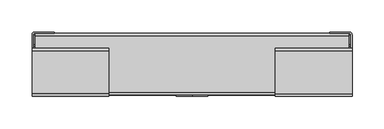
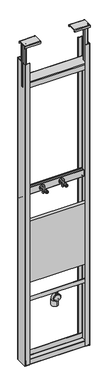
"""IFC4 building model written with IfcOpenShell, lengths in millimetres: flow terminal geometry, NLRS_74_PF_TLB_HU-ASM-AGB_Geberit : HU-ASM-AGB."""

from ifc_helpers import new_model, si_unit, point, frame, frame_2d, origin, place, context, project, spatial, polyline, circle_curve, ellipse_curve, trimmed, segment, composite_curve, outline, extrude, source, transform, mapped, element, save
from ifc_brep_helpers import plane_surface, cylinder_surface, revolved_surface, advanced_brep


def flow_terminal_17ddd345(model_context):
    return source(origin(), model_context, "Body", "SolidModel", [
        extrude(outline(composite_curve([segment(trimmed(circle_curve(frame_2d((1150.0, 894.5814924)), 20.0), [point((1141.7647059, 912.8072964))], [point((1141.7647059, 876.3556885))], False, "CARTESIAN"), True, "CONTINUOUS"), segment(trimmed(circle_curve(frame_2d((1143.0, 879.0895591)), 3.0), [point((1141.7647059, 876.3556885))], [point((1140.0, 879.0895591))], False, "CARTESIAN"), True, "CONTINUOUS"), segment(polyline([(1140.0, 879.0895591), (1140.0, 910.0734258)]), True, "CONTINUOUS"), segment(trimmed(circle_curve(frame_2d((1143.0, 910.0734258)), 3.0), [point((1140.0, 910.0734258))], [point((1141.7647059, 912.8072964))], False, "CARTESIAN"), True, "CONTINUOUS")], self_intersect=False)), frame((0.0, 73.7121106, 0.0), z_axis=(0.0, 1.0, 0.0), x_axis=(0.0, 0.0, 1.0)), (0.0, 0.0, 1.0), 5.0),
        advanced_brep(
        [(894.5814924, 60.7121106, 1115.0), (894.5814924, 66.7121106, 1115.0), (894.5814924, 54.7121106, 1115.0), (894.5814924, 66.7121106, 1130.0), (894.5814924, 54.7121106, 1130.0), (894.5814924, 68.7121106, 1130.0), (894.5814924, 52.7121106, 1130.0), (894.5814924, 68.7121106, 1150.0), (894.5814924, 52.7121106, 1150.0), (894.5814924, 60.7121106, 1150.0)],
        [
            (0, 1),
            (1, 2, circle_curve(frame((894.5814924, 60.7121106, 1115.0), z_axis=(0.0, 0.0, -1.0), x_axis=(0.0, 1.0, 0.0)), 6.0)),
            (2, 0),
            (2, 1, circle_curve(frame((894.5814924, 60.7121106, 1115.0), z_axis=(0.0, 0.0, -1.0), x_axis=(0.0, 1.0, 0.0)), 6.0)),
            (1, 3),
            (3, 4, circle_curve(frame((894.5814924, 60.7121106, 1130.0), z_axis=(0.0, 0.0, -1.0), x_axis=(0.0, 1.0, 0.0)), 6.0)),
            (4, 2),
            (4, 3, circle_curve(frame((894.5814924, 60.7121106, 1130.0), z_axis=(0.0, 0.0, -1.0), x_axis=(0.0, 1.0, 0.0)), 6.0)),
            (3, 5),
            (5, 6, circle_curve(frame((894.5814924, 60.7121106, 1130.0), z_axis=(0.0, 0.0, -1.0), x_axis=(0.0, 1.0, 0.0)), 8.0)),
            (6, 4),
            (6, 5, circle_curve(frame((894.5814924, 60.7121106, 1130.0), z_axis=(0.0, 0.0, -1.0), x_axis=(0.0, 1.0, 0.0)), 8.0)),
            (5, 7),
            (7, 8, circle_curve(frame((894.5814924, 60.7121106, 1150.0), z_axis=(0.0, 0.0, -1.0), x_axis=(0.0, 1.0, 0.0)), 8.0)),
            (8, 6),
            (8, 7, circle_curve(frame((894.5814924, 60.7121106, 1150.0), z_axis=(0.0, 0.0, -1.0), x_axis=(0.0, 1.0, 0.0)), 8.0)),
            (7, 9),
            (9, 8),
        ],
        [
            plane_surface(frame((894.5814924, 60.7121106, 1115.0), z_axis=(0.0, 0.0, -1.0), x_axis=(0.0, 1.0, 0.0))),
            cylinder_surface(frame((894.5814924, 60.7121106, 1154.6416054), z_axis=(0.0, 0.0, -1.0), x_axis=(0.0, 1.0, 0.0)), 6.0),
            plane_surface(frame((894.5814924, 60.7121106, 1130.0), z_axis=(0.0, 0.0, -1.0), x_axis=(0.0, 1.0, 0.0))),
            cylinder_surface(frame((894.5814924, 60.7121106, 1154.6416054), z_axis=(0.0, 0.0, -1.0), x_axis=(0.0, 1.0, 0.0)), 8.0),
            plane_surface(frame((894.5814924, 60.7121106, 1150.0), z_axis=(0.0, 0.0, 1.0), x_axis=(0.0, 1.0, 0.0))),
        ],
        [
            (0, [[1, 2, 3]]),
            (0, [[-3, 4, -1]]),
            (1, [[-2, 5, 6, 7]]),
            (1, [[-4, -7, 8, -5]]),
            (2, [[-6, 9, 10, 11]]),
            (2, [[-8, -11, 12, -9]]),
            (3, [[-10, 13, 14, 15]]),
            (3, [[-12, -15, 16, -13]]),
            (4, [[-14, 17, 18]]),
            (4, [[-16, -18, -17]]),
        ],
    ),
        advanced_brep(
        [(894.5814924, 23.7121106, 1141.0), (894.5814924, 23.7121106, 1159.0), (894.5814924, 23.7121106, 1160.0), (894.5814924, 23.7121106, 1140.0), (894.5814924, 8.7121106, 1160.0), (894.5814924, 8.7121106, 1140.0), (894.5814924, 8.7121106, 1156.0), (894.5814924, 8.7121106, 1144.0), (894.5814924, 38.7121106, 1156.0), (894.5814924, 38.7121106, 1144.0), (894.5814924, 38.7121106, 1150.0), (894.5814924, 73.7121106, 1150.0), (894.5814924, 73.7121106, 1159.0), (894.5814924, 73.7121106, 1141.0)],
        [
            (0, 1, circle_curve(frame((894.5814924, 23.7121106, 1150.0), z_axis=(0.0, -1.0, 0.0), x_axis=(0.0, 0.0, 1.0)), 9.0)),
            (1, 2),
            (2, 3, circle_curve(frame((894.5814924, 23.7121106, 1150.0), z_axis=(0.0, 1.0, 0.0), x_axis=(0.0, 0.0, 1.0)), 10.0)),
            (3, 0),
            (1, 0, circle_curve(frame((894.5814924, 23.7121106, 1150.0), z_axis=(0.0, -1.0, 0.0), x_axis=(0.0, 0.0, 1.0)), 9.0)),
            (3, 2, circle_curve(frame((894.5814924, 23.7121106, 1150.0), z_axis=(0.0, 1.0, 0.0), x_axis=(0.0, 0.0, 1.0)), 10.0)),
            (2, 4),
            (4, 5, circle_curve(frame((894.5814924, 8.7121106, 1150.0), z_axis=(0.0, 1.0, 0.0), x_axis=(0.0, 0.0, 1.0)), 10.0)),
            (5, 3),
            (5, 4, circle_curve(frame((894.5814924, 8.7121106, 1150.0), z_axis=(0.0, 1.0, 0.0), x_axis=(0.0, 0.0, 1.0)), 10.0)),
            (4, 6),
            (6, 7, circle_curve(frame((894.5814924, 8.7121106, 1150.0), z_axis=(0.0, 1.0, 0.0), x_axis=(0.0, 0.0, 1.0)), 6.0)),
            (7, 5),
            (7, 6, circle_curve(frame((894.5814924, 8.7121106, 1150.0), z_axis=(0.0, 1.0, 0.0), x_axis=(0.0, 0.0, 1.0)), 6.0)),
            (6, 8),
            (8, 9, circle_curve(frame((894.5814924, 38.7121106, 1150.0), z_axis=(0.0, 1.0, 0.0), x_axis=(0.0, 0.0, 1.0)), 6.0)),
            (9, 7),
            (9, 8, circle_curve(frame((894.5814924, 38.7121106, 1150.0), z_axis=(0.0, 1.0, 0.0), x_axis=(0.0, 0.0, 1.0)), 6.0)),
            (8, 10),
            (10, 9),
            (11, 12),
            (12, 13, circle_curve(frame((894.5814924, 73.7121106, 1150.0), z_axis=(0.0, 1.0, 0.0), x_axis=(0.0, 0.0, 1.0)), 9.0)),
            (13, 11),
            (13, 12, circle_curve(frame((894.5814924, 73.7121106, 1150.0), z_axis=(0.0, 1.0, 0.0), x_axis=(0.0, 0.0, 1.0)), 9.0)),
            (12, 1),
            (0, 13),
        ],
        [
            plane_surface(frame((894.5814924, 23.7121106, 1150.0), z_axis=(0.0, 1.0, 0.0), x_axis=(0.0, 0.0, 1.0))),
            cylinder_surface(frame((894.5814924, 1521.1330064, 1150.0), z_axis=(0.0, 1.0, 0.0), x_axis=(0.0, 0.0, 1.0)), 10.0),
            plane_surface(frame((894.5814924, 8.7121106, 1150.0), z_axis=(0.0, -1.0, 0.0), x_axis=(0.0, 0.0, 1.0))),
            revolved_surface(polyline([(894.5814924, 38.71211059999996, 1156.0), (894.5814924, 8.71211059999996, 1156.0)]), (894.5814924, 1521.1330064, 1150.0), (0.0, 1.0, 0.0)),
            plane_surface(frame((894.5814924, 38.7121106, 1150.0), z_axis=(0.0, -1.0, 0.0), x_axis=(0.0, 0.0, 1.0))),
            plane_surface(frame((894.5814924, 73.7121106, 1150.0), z_axis=(0.0, 1.0, 0.0), x_axis=(0.0, 0.0, 1.0))),
            cylinder_surface(frame((894.5814924, 1521.1330064, 1150.0), z_axis=(0.0, 1.0, 0.0), x_axis=(0.0, 0.0, 1.0)), 9.0),
        ],
        [
            (0, [[1, 2, 3, 4]]),
            (0, [[5, -4, 6, -2]]),
            (1, [[-3, 7, 8, 9]]),
            (1, [[-6, -9, 10, -7]]),
            (2, [[-8, 11, 12, 13]]),
            (2, [[-10, -13, 14, -11]]),
            (3, [[-12, 15, 16, 17]]),
            (3, [[-14, -17, 18, -15]]),
            (4, [[-16, 19, 20]]),
            (4, [[-18, -20, -19]]),
            (5, [[21, 22, 23]]),
            (5, [[-23, 24, -21]]),
            (6, [[-22, 25, -1, 26]]),
            (6, [[-24, -26, -5, -25]]),
        ],
    ),
        extrude(outline(composite_curve([segment(trimmed(circle_curve(frame_2d((1150.0, 744.5814924)), 20.0), [point((1141.7647059, 762.8072964))], [point((1141.7647059, 726.3556885))], False, "CARTESIAN"), True, "CONTINUOUS"), segment(trimmed(circle_curve(frame_2d((1143.0, 729.0895591)), 3.0), [point((1141.7647059, 726.3556885))], [point((1140.0, 729.0895591))], False, "CARTESIAN"), True, "CONTINUOUS"), segment(polyline([(1140.0, 729.0895591), (1140.0, 760.0734258)]), True, "CONTINUOUS"), segment(trimmed(circle_curve(frame_2d((1143.0, 760.0734258)), 3.0), [point((1140.0, 760.0734258))], [point((1141.7647059, 762.8072964))], False, "CARTESIAN"), True, "CONTINUOUS")], self_intersect=False)), frame((0.0, 73.7121106, 0.0), z_axis=(0.0, 1.0, 0.0), x_axis=(0.0, 0.0, 1.0)), (0.0, 0.0, 1.0), 5.0),
        advanced_brep(
        [(744.5814924, 60.7121106, 1115.0), (744.5814924, 66.7121106, 1115.0), (744.5814924, 54.7121106, 1115.0), (744.5814924, 66.7121106, 1130.0), (744.5814924, 54.7121106, 1130.0), (744.5814924, 68.7121106, 1130.0), (744.5814924, 52.7121106, 1130.0), (744.5814924, 68.7121106, 1150.0), (744.5814924, 52.7121106, 1150.0), (744.5814924, 60.7121106, 1150.0)],
        [
            (0, 1),
            (1, 2, circle_curve(frame((744.5814924, 60.7121106, 1115.0), z_axis=(0.0, 0.0, -1.0), x_axis=(0.0, 1.0, 0.0)), 6.0)),
            (2, 0),
            (2, 1, circle_curve(frame((744.5814924, 60.7121106, 1115.0), z_axis=(0.0, 0.0, -1.0), x_axis=(0.0, 1.0, 0.0)), 6.0)),
            (1, 3),
            (3, 4, circle_curve(frame((744.5814924, 60.7121106, 1130.0), z_axis=(0.0, 0.0, -1.0), x_axis=(0.0, 1.0, 0.0)), 6.0)),
            (4, 2),
            (4, 3, circle_curve(frame((744.5814924, 60.7121106, 1130.0), z_axis=(0.0, 0.0, -1.0), x_axis=(0.0, 1.0, 0.0)), 6.0)),
            (3, 5),
            (5, 6, circle_curve(frame((744.5814924, 60.7121106, 1130.0), z_axis=(0.0, 0.0, -1.0), x_axis=(0.0, 1.0, 0.0)), 8.0)),
            (6, 4),
            (6, 5, circle_curve(frame((744.5814924, 60.7121106, 1130.0), z_axis=(0.0, 0.0, -1.0), x_axis=(0.0, 1.0, 0.0)), 8.0)),
            (5, 7),
            (7, 8, circle_curve(frame((744.5814924, 60.7121106, 1150.0), z_axis=(0.0, 0.0, -1.0), x_axis=(0.0, 1.0, 0.0)), 8.0)),
            (8, 6),
            (8, 7, circle_curve(frame((744.5814924, 60.7121106, 1150.0), z_axis=(0.0, 0.0, -1.0), x_axis=(0.0, 1.0, 0.0)), 8.0)),
            (7, 9),
            (9, 8),
        ],
        [
            plane_surface(frame((744.5814924, 60.7121106, 1115.0), z_axis=(0.0, 0.0, -1.0), x_axis=(0.0, 1.0, 0.0))),
            cylinder_surface(frame((744.5814924, 60.7121106, 1154.6416054), z_axis=(0.0, 0.0, -1.0), x_axis=(0.0, 1.0, 0.0)), 6.0),
            plane_surface(frame((744.5814924, 60.7121106, 1130.0), z_axis=(0.0, 0.0, -1.0), x_axis=(0.0, 1.0, 0.0))),
            cylinder_surface(frame((744.5814924, 60.7121106, 1154.6416054), z_axis=(0.0, 0.0, -1.0), x_axis=(0.0, 1.0, 0.0)), 8.0),
            plane_surface(frame((744.5814924, 60.7121106, 1150.0), z_axis=(0.0, 0.0, 1.0), x_axis=(0.0, 1.0, 0.0))),
        ],
        [
            (0, [[1, 2, 3]]),
            (0, [[-3, 4, -1]]),
            (1, [[-2, 5, 6, 7]]),
            (1, [[-4, -7, 8, -5]]),
            (2, [[-6, 9, 10, 11]]),
            (2, [[-8, -11, 12, -9]]),
            (3, [[-10, 13, 14, 15]]),
            (3, [[-12, -15, 16, -13]]),
            (4, [[-14, 17, 18]]),
            (4, [[-16, -18, -17]]),
        ],
    ),
        advanced_brep(
        [(744.5814924, 23.7121106, 1141.0), (744.5814924, 23.7121106, 1159.0), (744.5814924, 23.7121106, 1160.0), (744.5814924, 23.7121106, 1140.0), (744.5814924, 8.7121106, 1160.0), (744.5814924, 8.7121106, 1140.0), (744.5814924, 8.7121106, 1156.0), (744.5814924, 8.7121106, 1144.0), (744.5814924, 38.7121106, 1156.0), (744.5814924, 38.7121106, 1144.0), (744.5814924, 38.7121106, 1150.0), (744.5814924, 73.7121106, 1150.0), (744.5814924, 73.7121106, 1159.0), (744.5814924, 73.7121106, 1141.0)],
        [
            (0, 1, circle_curve(frame((744.5814924, 23.7121106, 1150.0), z_axis=(0.0, -1.0, 0.0), x_axis=(0.0, 0.0, 1.0)), 9.0)),
            (1, 2),
            (2, 3, circle_curve(frame((744.5814924, 23.7121106, 1150.0), z_axis=(0.0, 1.0, 0.0), x_axis=(0.0, 0.0, 1.0)), 10.0)),
            (3, 0),
            (1, 0, circle_curve(frame((744.5814924, 23.7121106, 1150.0), z_axis=(0.0, -1.0, 0.0), x_axis=(0.0, 0.0, 1.0)), 9.0)),
            (3, 2, circle_curve(frame((744.5814924, 23.7121106, 1150.0), z_axis=(0.0, 1.0, 0.0), x_axis=(0.0, 0.0, 1.0)), 10.0)),
            (2, 4),
            (4, 5, circle_curve(frame((744.5814924, 8.7121106, 1150.0), z_axis=(0.0, 1.0, 0.0), x_axis=(0.0, 0.0, 1.0)), 10.0)),
            (5, 3),
            (5, 4, circle_curve(frame((744.5814924, 8.7121106, 1150.0), z_axis=(0.0, 1.0, 0.0), x_axis=(0.0, 0.0, 1.0)), 10.0)),
            (4, 6),
            (6, 7, circle_curve(frame((744.5814924, 8.7121106, 1150.0), z_axis=(0.0, 1.0, 0.0), x_axis=(0.0, 0.0, 1.0)), 6.0)),
            (7, 5),
            (7, 6, circle_curve(frame((744.5814924, 8.7121106, 1150.0), z_axis=(0.0, 1.0, 0.0), x_axis=(0.0, 0.0, 1.0)), 6.0)),
            (6, 8),
            (8, 9, circle_curve(frame((744.5814924, 38.7121106, 1150.0), z_axis=(0.0, 1.0, 0.0), x_axis=(0.0, 0.0, 1.0)), 6.0)),
            (9, 7),
            (9, 8, circle_curve(frame((744.5814924, 38.7121106, 1150.0), z_axis=(0.0, 1.0, 0.0), x_axis=(0.0, 0.0, 1.0)), 6.0)),
            (8, 10),
            (10, 9),
            (11, 12),
            (12, 13, circle_curve(frame((744.5814924, 73.7121106, 1150.0), z_axis=(0.0, 1.0, 0.0), x_axis=(0.0, 0.0, 1.0)), 9.0)),
            (13, 11),
            (13, 12, circle_curve(frame((744.5814924, 73.7121106, 1150.0), z_axis=(0.0, 1.0, 0.0), x_axis=(0.0, 0.0, 1.0)), 9.0)),
            (12, 1),
            (0, 13),
        ],
        [
            plane_surface(frame((744.5814924, 23.7121106, 1150.0), z_axis=(0.0, 1.0, 0.0), x_axis=(0.0, 0.0, 1.0))),
            cylinder_surface(frame((744.5814924, 1521.1330064, 1150.0), z_axis=(0.0, 1.0, 0.0), x_axis=(0.0, 0.0, 1.0)), 10.0),
            plane_surface(frame((744.5814924, 8.7121106, 1150.0), z_axis=(0.0, -1.0, 0.0), x_axis=(0.0, 0.0, 1.0))),
            revolved_surface(polyline([(744.5814924, 38.71211059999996, 1156.0), (744.5814924, 8.71211059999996, 1156.0)]), (744.5814924, 1521.1330064, 1150.0), (0.0, 1.0, 0.0)),
            plane_surface(frame((744.5814924, 38.7121106, 1150.0), z_axis=(0.0, -1.0, 0.0), x_axis=(0.0, 0.0, 1.0))),
            plane_surface(frame((744.5814924, 73.7121106, 1150.0), z_axis=(0.0, 1.0, 0.0), x_axis=(0.0, 0.0, 1.0))),
            cylinder_surface(frame((744.5814924, 1521.1330064, 1150.0), z_axis=(0.0, 1.0, 0.0), x_axis=(0.0, 0.0, 1.0)), 9.0),
        ],
        [
            (0, [[1, 2, 3, 4]]),
            (0, [[5, -4, 6, -2]]),
            (1, [[-3, 7, 8, 9]]),
            (1, [[-6, -9, 10, -7]]),
            (2, [[-8, 11, 12, 13]]),
            (2, [[-10, -13, 14, -11]]),
            (3, [[-12, 15, 16, 17]]),
            (3, [[-14, -17, 18, -15]]),
            (4, [[-16, 19, 20]]),
            (4, [[-18, -20, -19]]),
            (5, [[21, 22, 23]]),
            (5, [[-23, 24, -21]]),
            (6, [[-22, 25, -1, 26]]),
            (6, [[-24, -26, -5, -25]]),
        ],
    ),
        extrude(outline(composite_curve([segment(polyline([(1034.5814924, 0.5), (1034.5814924, 2.5), (1065.5814924, 2.5)]), True, "CONTINUOUS"), segment(trimmed(circle_curve(frame_2d((1065.5814924, 4.5)), 2.0), [point((1065.5814924, 2.5))], [point((1067.5814924, 4.5))], True, "CARTESIAN"), True, "CONTINUOUS"), segment(polyline([(1067.5814924, 4.5), (1067.5814924, 96.5)]), True, "CONTINUOUS"), segment(trimmed(circle_curve(frame_2d((1065.5814924, 96.5)), 2.0), [point((1067.5814924, 96.5))], [point((1065.5814924, 98.5))], True, "CARTESIAN"), True, "CONTINUOUS"), segment(polyline([(1065.5814924, 98.5), (1034.5814924, 98.5), (1034.5814924, 100.5), (1065.5814924, 100.5)]), True, "CONTINUOUS"), segment(trimmed(circle_curve(frame_2d((1065.5814924, 96.5)), 4.0), [point((1065.5814924, 100.5))], [point((1069.5814924, 96.5))], False, "CARTESIAN"), True, "CONTINUOUS"), segment(polyline([(1069.5814924, 96.5), (1069.5814924, 4.5)]), True, "CONTINUOUS"), segment(trimmed(circle_curve(frame_2d((1065.5814924, 4.5)), 4.0), [point((1069.5814924, 4.5))], [point((1065.5814924, 0.5))], False, "CARTESIAN"), True, "CONTINUOUS"), segment(polyline([(1065.5814924, 0.5), (1034.5814924, 0.5)]), True, "CONTINUOUS")], self_intersect=False)), frame((0.0, 0.0, -200.0), z_axis=(0.0, 0.0, 1.0), x_axis=(1.0, 0.0, 0.0)), (0.0, 0.0, 1.0), 2450.0),
        extrude(outline(composite_curve([segment(polyline([(604.5814924, 0.5), (573.5814924, 0.5)]), True, "CONTINUOUS"), segment(trimmed(circle_curve(frame_2d((573.5814924, 4.5)), 4.0), [point((573.5814924, 0.5))], [point((569.5814924, 4.5))], False, "CARTESIAN"), True, "CONTINUOUS"), segment(polyline([(569.5814924, 4.5), (569.5814924, 96.5)]), True, "CONTINUOUS"), segment(trimmed(circle_curve(frame_2d((573.5814924, 96.5)), 4.0), [point((569.5814924, 96.5))], [point((573.5814924, 100.5))], False, "CARTESIAN"), True, "CONTINUOUS"), segment(polyline([(573.5814924, 100.5), (604.5814924, 100.5), (604.5814924, 98.5), (573.5814924, 98.5)]), True, "CONTINUOUS"), segment(trimmed(circle_curve(frame_2d((573.5814924, 96.5)), 2.0), [point((573.5814924, 98.5))], [point((571.5814924, 96.5))], True, "CARTESIAN"), True, "CONTINUOUS"), segment(polyline([(571.5814924, 96.5), (571.5814924, 4.5)]), True, "CONTINUOUS"), segment(trimmed(circle_curve(frame_2d((573.5814924, 4.5)), 2.0), [point((571.5814924, 4.5))], [point((573.5814924, 2.5))], True, "CARTESIAN"), True, "CONTINUOUS"), segment(polyline([(573.5814924, 2.5), (604.5814924, 2.5), (604.5814924, 0.5)]), True, "CONTINUOUS")], self_intersect=False)), frame((0.0, 0.0, -200.0), z_axis=(0.0, 0.0, 1.0), x_axis=(1.0, 0.0, 0.0)), (0.0, 0.0, 1.0), 2450.0),
        extrude(outline(composite_curve([segment(polyline([(2.0, -156.0), (4.0, -156.0), (4.0, -196.0)]), True, "CONTINUOUS"), segment(trimmed(circle_curve(frame_2d((6.0, -196.0)), 2.0), [point((4.0, -196.0))], [point((6.0, -198.0))], True, "CARTESIAN"), True, "CONTINUOUS"), segment(polyline([(6.0, -198.0), (94.0, -198.0)]), True, "CONTINUOUS"), segment(trimmed(circle_curve(frame_2d((94.0, -196.0)), 2.0), [point((94.0, -198.0))], [point((96.0, -196.0))], True, "CARTESIAN"), True, "CONTINUOUS"), segment(polyline([(96.0, -196.0), (96.0, -156.0), (98.0, -156.0), (98.0, -196.0)]), True, "CONTINUOUS"), segment(trimmed(circle_curve(frame_2d((94.0, -196.0)), 4.0), [point((98.0, -196.0))], [point((94.0, -200.0))], False, "CARTESIAN"), True, "CONTINUOUS"), segment(polyline([(94.0, -200.0), (6.0, -200.0)]), True, "CONTINUOUS"), segment(trimmed(circle_curve(frame_2d((6.0, -196.0)), 4.0), [point((6.0, -200.0))], [point((2.0, -196.0))], False, "CARTESIAN"), True, "CONTINUOUS"), segment(polyline([(2.0, -196.0), (2.0, -156.0)]), True, "CONTINUOUS")], self_intersect=False)), frame((574.5814924, 0.0, 0.0), z_axis=(1.0, 0.0, 0.0), x_axis=(0.0, 1.0, 0.0)), (0.0, 0.0, 1.0), 490.0),
        extrude(outline(composite_curve([segment(polyline([(2.5, 2050.0), (2.5, 2090.0)]), True, "CONTINUOUS"), segment(trimmed(circle_curve(frame_2d((6.5, 2090.0)), 4.0), [point((2.5, 2090.0))], [point((6.5, 2094.0))], False, "CARTESIAN"), True, "CONTINUOUS"), segment(polyline([(6.5, 2094.0), (94.5, 2094.0)]), True, "CONTINUOUS"), segment(trimmed(circle_curve(frame_2d((94.5, 2090.0)), 4.0), [point((94.5, 2094.0))], [point((98.5, 2090.0))], False, "CARTESIAN"), True, "CONTINUOUS"), segment(polyline([(98.5, 2090.0), (98.5, 2050.0), (96.5, 2050.0), (96.5, 2090.0)]), True, "CONTINUOUS"), segment(trimmed(circle_curve(frame_2d((94.5, 2090.0)), 2.0), [point((96.5, 2090.0))], [point((94.5, 2092.0))], True, "CARTESIAN"), True, "CONTINUOUS"), segment(polyline([(94.5, 2092.0), (6.5, 2092.0)]), True, "CONTINUOUS"), segment(trimmed(circle_curve(frame_2d((6.5, 2090.0)), 2.0), [point((6.5, 2092.0))], [point((4.5, 2090.0))], True, "CARTESIAN"), True, "CONTINUOUS"), segment(polyline([(4.5, 2090.0), (4.5, 2050.0), (2.5, 2050.0)]), True, "CONTINUOUS")], self_intersect=False)), frame((574.5814924, 0.0, 0.0), z_axis=(1.0, 0.0, 0.0), x_axis=(0.0, 1.0, 0.0)), (0.0, 0.0, 1.0), 490.0),
        advanced_brep(
        [(949.5814924, 0.0, 2396.0), (949.5814924, 4.0, 2400.0), (949.5814924, 71.0, 2400.0), (949.5814924, 75.0, 2396.0), (949.5814924, 75.0, 2387.0), (949.5814924, 73.0, 2387.0), (949.5814924, 73.0, 2396.0), (949.5814924, 71.0, 2398.0), (949.5814924, 4.0, 2398.0), (949.5814924, 2.0, 2396.0), (949.5814924, 2.0, 2387.0), (949.5814924, 0.0, 2387.0), (1069.5814924, 0.0, 2383.0), (1069.5814924, 2.0, 2383.0), (1069.5814924, 2.0, 2396.0), (1069.5814924, 4.0, 2398.0), (1069.5814924, 29.0, 2398.0), (1069.5814924, 29.0, 2050.0), (1069.5814924, 46.0, 2050.0), (1069.5814924, 46.0, 2398.0), (1069.5814924, 71.0, 2398.0), (1069.5814924, 73.0, 2396.0), (1069.5814924, 73.0, 2383.0), (1069.5814924, 75.0, 2383.0), (1069.5814924, 75.0, 2396.0), (1069.5814924, 71.0, 2400.0), (1069.5814924, 4.0, 2400.0), (1069.5814924, 0.0, 2396.0), (953.5814924, 0.0, 2383.0), (953.5814924, 2.0, 2383.0), (1065.5814924, 50.0, 2398.0), (1048.5814924, 50.0, 2398.0), (1044.5814924, 46.0, 2398.0), (1044.5814924, 29.0, 2398.0), (1048.5814924, 25.0, 2398.0), (1065.5814924, 25.0, 2398.0), (1048.5814924, 27.0, 2398.0), (1046.5814924, 29.0, 2398.0), (1046.5814924, 46.0, 2398.0), (1048.5814924, 48.0, 2398.0), (1065.5814924, 48.0, 2398.0), (1067.5814924, 46.0, 2398.0), (1067.5814924, 29.0, 2398.0), (1065.5814924, 27.0, 2398.0), (953.5814924, 73.0, 2383.0), (953.5814924, 75.0, 2383.0), (1048.5814924, 25.0, 2050.0), (1044.5814924, 29.0, 2050.0), (1044.5814924, 46.0, 2050.0), (1048.5814924, 50.0, 2050.0), (1065.5814924, 50.0, 2050.0), (1065.5814924, 25.0, 2050.0), (1048.5814924, 27.0, 2050.0), (1065.5814924, 27.0, 2050.0), (1067.5814924, 29.0, 2050.0), (1067.5814924, 46.0, 2050.0), (1065.5814924, 48.0, 2050.0), (1048.5814924, 48.0, 2050.0), (1046.5814924, 46.0, 2050.0), (1046.5814924, 29.0, 2050.0)],
        [
            (0, 1, circle_curve(frame((949.5814924, 4.0, 2396.0), z_axis=(-1.0, 0.0, 0.0), x_axis=(0.0, 0.0, 1.0)), 4.0)),
            (1, 2),
            (2, 3, circle_curve(frame((949.5814924, 71.0, 2396.0), z_axis=(-1.0, 0.0, 0.0), x_axis=(0.0, 0.0, 1.0)), 4.0)),
            (3, 4),
            (4, 5),
            (5, 6),
            (6, 7, circle_curve(frame((949.5814924, 71.0, 2396.0), z_axis=(1.0, 0.0, 0.0), x_axis=(0.0, 0.0, 1.0)), 2.0)),
            (7, 8),
            (8, 9, circle_curve(frame((949.5814924, 4.0, 2396.0), z_axis=(1.0, 0.0, 0.0), x_axis=(0.0, 0.0, 1.0)), 2.0)),
            (9, 10),
            (10, 11),
            (11, 0),
            (12, 13),
            (13, 14),
            (14, 15, circle_curve(frame((1069.5814924, 4.0, 2396.0), z_axis=(-1.0, 0.0, 0.0), x_axis=(0.0, 0.0, 1.0)), 2.0)),
            (15, 16),
            (16, 17),
            (17, 18),
            (18, 19),
            (19, 20),
            (20, 21, circle_curve(frame((1069.5814924, 71.0, 2396.0), z_axis=(-1.0, 0.0, 0.0), x_axis=(0.0, 0.0, 1.0)), 2.0)),
            (21, 22),
            (22, 23),
            (23, 24),
            (24, 25, circle_curve(frame((1069.5814924, 71.0, 2396.0), z_axis=(1.0, 0.0, 0.0), x_axis=(0.0, 0.0, 1.0)), 4.0)),
            (25, 26),
            (26, 27, circle_curve(frame((1069.5814924, 4.0, 2396.0), z_axis=(1.0, 0.0, 0.0), x_axis=(0.0, 0.0, 1.0)), 4.0)),
            (27, 12),
            (12, 28),
            (28, 29),
            (29, 13),
            (29, 10, circle_curve(frame((953.5814924, 2.0, 2387.0), z_axis=(0.0, 1.0, 0.0), x_axis=(0.0, 0.0, 1.0)), 4.0)),
            (9, 14),
            (8, 15),
            (7, 20),
            (19, 30, circle_curve(frame((1065.5814924, 46.0, 2398.0), z_axis=(0.0, 0.0, 1.0), x_axis=(-1.0, 0.0, 0.0)), 4.0)),
            (30, 31),
            (31, 32, circle_curve(frame((1048.5814924, 46.0, 2398.0), z_axis=(0.0, 0.0, 1.0), x_axis=(-1.0, 0.0, 0.0)), 4.0)),
            (32, 33),
            (33, 34, circle_curve(frame((1048.5814924, 29.0, 2398.0), z_axis=(0.0, 0.0, 1.0), x_axis=(-1.0, 0.0, 0.0)), 4.0)),
            (34, 35),
            (35, 16, circle_curve(frame((1065.5814924, 29.0, 2398.0), z_axis=(0.0, 0.0, 1.0), x_axis=(-1.0, 0.0, 0.0)), 4.0)),
            (36, 37, circle_curve(frame((1048.5814924, 29.0, 2398.0), z_axis=(0.0, 0.0, -1.0), x_axis=(-1.0, 0.0, 0.0)), 2.0)),
            (37, 38),
            (38, 39, circle_curve(frame((1048.5814924, 46.0, 2398.0), z_axis=(0.0, 0.0, -1.0), x_axis=(-1.0, 0.0, 0.0)), 2.0)),
            (39, 40),
            (40, 41, circle_curve(frame((1065.5814924, 46.0, 2398.0), z_axis=(0.0, 0.0, -1.0), x_axis=(-1.0, 0.0, 0.0)), 2.0)),
            (41, 42),
            (42, 43, circle_curve(frame((1065.5814924, 29.0, 2398.0), z_axis=(0.0, 0.0, -1.0), x_axis=(-1.0, 0.0, 0.0)), 2.0)),
            (43, 36),
            (6, 21),
            (5, 44, circle_curve(frame((953.5814924, 73.0, 2387.0), z_axis=(0.0, -1.0, 0.0), x_axis=(0.0, 0.0, 1.0)), 4.0)),
            (44, 22),
            (44, 45),
            (45, 23),
            (45, 4, circle_curve(frame((953.5814924, 75.0, 2387.0), z_axis=(0.0, 1.0, 0.0), x_axis=(0.0, 0.0, 1.0)), 4.0)),
            (3, 24),
            (2, 25),
            (1, 26),
            (0, 27),
            (11, 28, circle_curve(frame((953.5814924, 0.0, 2387.0), z_axis=(0.0, -1.0, 0.0), x_axis=(0.0, 0.0, 1.0)), 4.0)),
            (46, 47, circle_curve(frame((1048.5814924, 29.0, 2050.0), z_axis=(0.0, 0.0, -1.0), x_axis=(-1.0, 0.0, 0.0)), 4.0)),
            (47, 48),
            (48, 49, circle_curve(frame((1048.5814924, 46.0, 2050.0), z_axis=(0.0, 0.0, -1.0), x_axis=(-1.0, 0.0, 0.0)), 4.0)),
            (49, 50),
            (50, 18, circle_curve(frame((1065.5814924, 46.0, 2050.0), z_axis=(0.0, 0.0, -1.0), x_axis=(-1.0, 0.0, 0.0)), 4.0)),
            (17, 51, circle_curve(frame((1065.5814924, 29.0, 2050.0), z_axis=(0.0, 0.0, -1.0), x_axis=(-1.0, 0.0, 0.0)), 4.0)),
            (51, 46),
            (52, 53),
            (53, 54, circle_curve(frame((1065.5814924, 29.0, 2050.0), z_axis=(0.0, 0.0, 1.0), x_axis=(-1.0, 0.0, 0.0)), 2.0)),
            (54, 55),
            (55, 56, circle_curve(frame((1065.5814924, 46.0, 2050.0), z_axis=(0.0, 0.0, 1.0), x_axis=(-1.0, 0.0, 0.0)), 2.0)),
            (56, 57),
            (57, 58, circle_curve(frame((1048.5814924, 46.0, 2050.0), z_axis=(0.0, 0.0, 1.0), x_axis=(-1.0, 0.0, 0.0)), 2.0)),
            (58, 59),
            (59, 52, circle_curve(frame((1048.5814924, 29.0, 2050.0), z_axis=(0.0, 0.0, 1.0), x_axis=(-1.0, 0.0, 0.0)), 2.0)),
            (51, 35),
            (34, 46),
            (50, 30),
            (49, 31),
            (48, 32),
            (47, 33),
            (59, 37),
            (36, 52),
            (58, 38),
            (57, 39),
            (56, 40),
            (55, 41),
            (54, 42),
            (53, 43),
        ],
        [
            plane_surface(frame((949.5814924, 2.0, 2383.0), z_axis=(-1.0, 0.0, 0.0), x_axis=(0.0, -1.0, 0.0))),
            plane_surface(frame((1069.5814924, 2.0, 2383.0), z_axis=(1.0, 0.0, 0.0), x_axis=(0.0, 1.0, 0.0))),
            plane_surface(frame((1069.5814924, 0.0, 2383.0), z_axis=(0.0, 0.0, -1.0), x_axis=(-1.0, 0.0, 0.0))),
            plane_surface(frame((1069.5814924, 2.0, 2383.0), z_axis=(0.0, 1.0, 0.0), x_axis=(-1.0, 0.0, 0.0))),
            revolved_surface(polyline([(949.5814924, 4.0, 2398.0), (1069.5814924, 4.0, 2398.0)]), (949.5814924, 4.0, 2396.0), (-1.0, 0.0, 0.0)),
            plane_surface(frame((1069.5814924, 4.0, 2398.0), z_axis=(0.0, 0.0, -1.0), x_axis=(-1.0, 0.0, 0.0))),
            revolved_surface(polyline([(949.5814924, 71.0, 2398.0), (1069.5814924, 71.0, 2398.0)]), (949.5814924, 71.0, 2396.0), (-1.0, 0.0, 0.0)),
            plane_surface(frame((1069.5814924, 73.0, 2396.0), z_axis=(0.0, -1.0, 0.0), x_axis=(-1.0, 0.0, 0.0))),
            plane_surface(frame((1069.5814924, 73.0, 2383.0), z_axis=(0.0, 0.0, -1.0), x_axis=(-1.0, 0.0, 0.0))),
            plane_surface(frame((1069.5814924, 75.0, 2383.0), z_axis=(0.0, 1.0, 0.0), x_axis=(-1.0, 0.0, 0.0))),
            cylinder_surface(frame((949.5814924, 71.0, 2396.0), z_axis=(1.0, 0.0, 0.0), x_axis=(0.0, 0.0, 1.0)), 4.0),
            plane_surface(frame((1069.5814924, 71.0, 2400.0), z_axis=(0.0, 0.0, 1.0), x_axis=(-1.0, 0.0, 0.0))),
            cylinder_surface(frame((949.5814924, 4.0, 2396.0), z_axis=(1.0, 0.0, 0.0), x_axis=(0.0, 0.0, 1.0)), 4.0),
            plane_surface(frame((1069.5814924, 0.0, 2396.0), z_axis=(0.0, -1.0, 0.0), x_axis=(-1.0, 0.0, 0.0))),
            plane_surface(frame((1069.5814924, 25.0, 2050.0), z_axis=(0.0, 0.0, -1.0), x_axis=(-1.0, 0.0, 0.0))),
            plane_surface(frame((1048.5814924, 25.0, 2400.0), z_axis=(0.0, -1.0, 0.0), x_axis=(0.0, 0.0, -1.0))),
            cylinder_surface(frame((1065.5814924, 29.0, 2050.0), z_axis=(0.0, 0.0, 1.0), x_axis=(-1.0, 0.0, 0.0)), 4.0),
            cylinder_surface(frame((1065.5814924, 46.0, 2050.0), z_axis=(0.0, 0.0, 1.0), x_axis=(-1.0, 0.0, 0.0)), 4.0),
            plane_surface(frame((1065.5814924, 50.0, 2400.0), z_axis=(0.0, 1.0, 0.0), x_axis=(0.0, 0.0, -1.0))),
            cylinder_surface(frame((1048.5814924, 46.0, 2050.0), z_axis=(0.0, 0.0, 1.0), x_axis=(-1.0, 0.0, 0.0)), 4.0),
            plane_surface(frame((1044.5814924, 46.0, 2400.0), z_axis=(-1.0, 0.0, 0.0), x_axis=(0.0, 0.0, -1.0))),
            cylinder_surface(frame((1048.5814924, 29.0, 2050.0), z_axis=(0.0, 0.0, 1.0), x_axis=(-1.0, 0.0, 0.0)), 4.0),
            revolved_surface(polyline([(1046.5814924, 29.0, 2050.0), (1046.5814924, 29.0, 2398.0)]), (1048.5814924, 29.0, 2050.0), (0.0, 0.0, -1.0)),
            plane_surface(frame((1046.5814924, 29.0, 2400.0), z_axis=(1.0, 0.0, 0.0), x_axis=(0.0, 0.0, -1.0))),
            revolved_surface(polyline([(1046.5814924, 46.0, 2050.0), (1046.5814924, 46.0, 2398.0)]), (1048.5814924, 46.0, 2050.0), (0.0, 0.0, -1.0)),
            plane_surface(frame((1048.5814924, 48.0, 2400.0), z_axis=(0.0, -1.0, 0.0), x_axis=(0.0, 0.0, -1.0))),
            revolved_surface(polyline([(1063.5814924, 46.0, 2050.0), (1063.5814924, 46.0, 2398.0)]), (1065.5814924, 46.0, 2050.0), (0.0, 0.0, -1.0)),
            plane_surface(frame((1067.5814924, 46.0, 2400.0), z_axis=(-1.0, 0.0, 0.0), x_axis=(0.0, 0.0, -1.0))),
            revolved_surface(polyline([(1063.5814924, 29.0, 2050.0), (1063.5814924, 29.0, 2398.0)]), (1065.5814924, 29.0, 2050.0), (0.0, 0.0, -1.0)),
            plane_surface(frame((1065.5814924, 27.0, 2400.0), z_axis=(0.0, 1.0, 0.0), x_axis=(0.0, 0.0, -1.0))),
            cylinder_surface(frame((953.5814924, 120.0, 2387.0), z_axis=(0.0, 1.0, 0.0), x_axis=(0.0, 0.0, 1.0)), 4.0),
        ],
        [
            (0, [[1, 2, 3, 4, 5, 6, 7, 8, 9, 10, 11, 12]]),
            (1, [[13, 14, 15, 16, 17, 18, 19, 20, 21, 22, 23, 24, 25, 26, 27, 28]]),
            (2, [[-13, 29, 30, 31]]),
            (3, [[-14, -31, 32, -10, 33]]),
            (4, [[-9, 34, -15, -33]]),
            (5, [[-8, 35, -20, 36, 37, 38, 39, 40, 41, 42, -16, -34]]),
            (5, [[43, 44, 45, 46, 47, 48, 49, 50]]),
            (6, [[-7, 51, -21, -35]]),
            (7, [[-22, -51, -6, 52, 53]]),
            (8, [[-23, -53, 54, 55]]),
            (9, [[-24, -55, 56, -4, 57]]),
            (10, [[-3, 58, -25, -57]]),
            (11, [[-2, 59, -26, -58]]),
            (12, [[-1, 60, -27, -59]]),
            (13, [[-28, -60, -12, 61, -29]]),
            (14, [[62, 63, 64, 65, 66, -18, 67, 68], [69, 70, 71, 72, 73, 74, 75, 76]]),
            (15, [[-68, 77, -41, 78]]),
            (16, [[-67, -17, -42, -77]]),
            (17, [[-66, 79, -36, -19]]),
            (18, [[-65, 80, -37, -79]]),
            (19, [[-64, 81, -38, -80]]),
            (20, [[-63, 82, -39, -81]]),
            (21, [[-62, -78, -40, -82]]),
            (22, [[-76, 83, -43, 84]]),
            (23, [[-75, 85, -44, -83]]),
            (24, [[-74, 86, -45, -85]]),
            (25, [[-73, 87, -46, -86]]),
            (26, [[-72, 88, -47, -87]]),
            (27, [[-71, 89, -48, -88]]),
            (28, [[-70, 90, -49, -89]]),
            (29, [[-69, -84, -50, -90]]),
            (30, [[-5, -56, -54, -52]]),
            (30, [[-11, -32, -30, -61]]),
        ],
    ),
        advanced_brep(
        [(689.5814924, 0.5, 2396.0), (689.5814924, 0.5, 2387.0), (689.5814924, 2.5, 2387.0), (689.5814924, 2.5, 2396.0), (689.5814924, 4.5, 2398.0), (689.5814924, 71.5, 2398.0), (689.5814924, 73.5, 2396.0), (689.5814924, 73.5, 2387.0), (689.5814924, 75.5, 2387.0), (689.5814924, 75.5, 2396.0), (689.5814924, 71.5, 2400.0), (689.5814924, 4.5, 2400.0), (569.5814924, 0.5, 2383.0), (569.5814924, 0.5, 2396.0), (569.5814924, 4.5, 2400.0), (569.5814924, 71.5, 2400.0), (569.5814924, 75.5, 2396.0), (569.5814924, 75.5, 2383.0), (569.5814924, 73.5, 2383.0), (569.5814924, 73.5, 2396.0), (569.5814924, 71.5, 2398.0), (569.5814924, 46.5, 2398.0), (569.5814924, 46.5, 2050.0), (569.5814924, 29.5, 2050.0), (569.5814924, 29.5, 2398.0), (569.5814924, 4.5, 2398.0), (569.5814924, 2.5, 2396.0), (569.5814924, 2.5, 2383.0), (685.5814924, 2.5, 2383.0), (685.5814924, 0.5, 2383.0), (573.5814924, 25.5, 2398.0), (590.5814924, 25.5, 2398.0), (594.5814924, 29.5, 2398.0), (594.5814924, 46.5, 2398.0), (590.5814924, 50.5, 2398.0), (573.5814924, 50.5, 2398.0), (590.5814924, 27.5, 2398.0), (573.5814924, 27.5, 2398.0), (571.5814924, 29.5, 2398.0), (571.5814924, 46.5, 2398.0), (573.5814924, 48.5, 2398.0), (590.5814924, 48.5, 2398.0), (592.5814924, 46.5, 2398.0), (592.5814924, 29.5, 2398.0), (685.5814924, 73.5, 2383.0), (685.5814924, 75.5, 2383.0), (590.5814924, 25.5, 2050.0), (573.5814924, 25.5, 2050.0), (573.5814924, 50.5, 2050.0), (590.5814924, 50.5, 2050.0), (594.5814924, 46.5, 2050.0), (594.5814924, 29.5, 2050.0), (590.5814924, 27.5, 2050.0), (592.5814924, 29.5, 2050.0), (592.5814924, 46.5, 2050.0), (590.5814924, 48.5, 2050.0), (573.5814924, 48.5, 2050.0), (571.5814924, 46.5, 2050.0), (571.5814924, 29.5, 2050.0), (573.5814924, 27.5, 2050.0)],
        [
            (0, 1),
            (1, 2),
            (2, 3),
            (3, 4, circle_curve(frame((689.5814924, 4.5, 2396.0), z_axis=(-1.0, 0.0, 0.0), x_axis=(0.0, 0.0, 1.0)), 2.0)),
            (4, 5),
            (5, 6, circle_curve(frame((689.5814924, 71.5, 2396.0), z_axis=(-1.0, 0.0, 0.0), x_axis=(0.0, 0.0, 1.0)), 2.0)),
            (6, 7),
            (7, 8),
            (8, 9),
            (9, 10, circle_curve(frame((689.5814924, 71.5, 2396.0), z_axis=(1.0, 0.0, 0.0), x_axis=(0.0, 0.0, 1.0)), 4.0)),
            (10, 11),
            (11, 0, circle_curve(frame((689.5814924, 4.5, 2396.0), z_axis=(1.0, 0.0, 0.0), x_axis=(0.0, 0.0, 1.0)), 4.0)),
            (12, 13),
            (13, 14, circle_curve(frame((569.5814924, 4.5, 2396.0), z_axis=(-1.0, 0.0, 0.0), x_axis=(0.0, 0.0, 1.0)), 4.0)),
            (14, 15),
            (15, 16, circle_curve(frame((569.5814924, 71.5, 2396.0), z_axis=(-1.0, 0.0, 0.0), x_axis=(0.0, 0.0, 1.0)), 4.0)),
            (16, 17),
            (17, 18),
            (18, 19),
            (19, 20, circle_curve(frame((569.5814924, 71.5, 2396.0), z_axis=(1.0, 0.0, 0.0), x_axis=(0.0, 0.0, 1.0)), 2.0)),
            (20, 21),
            (21, 22),
            (22, 23),
            (23, 24),
            (24, 25),
            (25, 26, circle_curve(frame((569.5814924, 4.5, 2396.0), z_axis=(1.0, 0.0, 0.0), x_axis=(0.0, 0.0, 1.0)), 2.0)),
            (26, 27),
            (27, 12),
            (27, 28),
            (28, 29),
            (29, 12),
            (26, 3),
            (2, 28, circle_curve(frame((685.5814924, 2.5, 2387.0), z_axis=(0.0, 1.0, 0.0), x_axis=(0.0, 0.0, 1.0)), 4.0)),
            (25, 4),
            (24, 30, circle_curve(frame((573.5814924, 29.5, 2398.0), z_axis=(0.0, 0.0, 1.0), x_axis=(1.0, 0.0, 0.0)), 4.0)),
            (30, 31),
            (31, 32, circle_curve(frame((590.5814924, 29.5, 2398.0), z_axis=(0.0, 0.0, 1.0), x_axis=(1.0, 0.0, 0.0)), 4.0)),
            (32, 33),
            (33, 34, circle_curve(frame((590.5814924, 46.5, 2398.0), z_axis=(0.0, 0.0, 1.0), x_axis=(1.0, 0.0, 0.0)), 4.0)),
            (34, 35),
            (35, 21, circle_curve(frame((573.5814924, 46.5, 2398.0), z_axis=(0.0, 0.0, 1.0), x_axis=(1.0, 0.0, 0.0)), 4.0)),
            (20, 5),
            (36, 37),
            (37, 38, circle_curve(frame((573.5814924, 29.5, 2398.0), z_axis=(0.0, 0.0, -1.0), x_axis=(1.0, 0.0, 0.0)), 2.0)),
            (38, 39),
            (39, 40, circle_curve(frame((573.5814924, 46.5, 2398.0), z_axis=(0.0, 0.0, -1.0), x_axis=(1.0, 0.0, 0.0)), 2.0)),
            (40, 41),
            (41, 42, circle_curve(frame((590.5814924, 46.5, 2398.0), z_axis=(0.0, 0.0, -1.0), x_axis=(1.0, 0.0, 0.0)), 2.0)),
            (42, 43),
            (43, 36, circle_curve(frame((590.5814924, 29.5, 2398.0), z_axis=(0.0, 0.0, -1.0), x_axis=(1.0, 0.0, 0.0)), 2.0)),
            (19, 6),
            (18, 44),
            (44, 7, circle_curve(frame((685.5814924, 73.5, 2387.0), z_axis=(0.0, -1.0, 0.0), x_axis=(0.0, 0.0, 1.0)), 4.0)),
            (17, 45),
            (45, 44),
            (16, 9),
            (8, 45, circle_curve(frame((685.5814924, 75.5, 2387.0), z_axis=(0.0, 1.0, 0.0), x_axis=(0.0, 0.0, 1.0)), 4.0)),
            (15, 10),
            (14, 11),
            (13, 0),
            (29, 1, circle_curve(frame((685.5814924, 0.5, 2387.0), z_axis=(0.0, -1.0, 0.0), x_axis=(0.0, 0.0, 1.0)), 4.0)),
            (46, 47),
            (47, 23, circle_curve(frame((573.5814924, 29.5, 2050.0), z_axis=(0.0, 0.0, -1.0), x_axis=(1.0, 0.0, 0.0)), 4.0)),
            (22, 48, circle_curve(frame((573.5814924, 46.5, 2050.0), z_axis=(0.0, 0.0, -1.0), x_axis=(1.0, 0.0, 0.0)), 4.0)),
            (48, 49),
            (49, 50, circle_curve(frame((590.5814924, 46.5, 2050.0), z_axis=(0.0, 0.0, -1.0), x_axis=(1.0, 0.0, 0.0)), 4.0)),
            (50, 51),
            (51, 46, circle_curve(frame((590.5814924, 29.5, 2050.0), z_axis=(0.0, 0.0, -1.0), x_axis=(1.0, 0.0, 0.0)), 4.0)),
            (52, 53, circle_curve(frame((590.5814924, 29.5, 2050.0), z_axis=(0.0, 0.0, 1.0), x_axis=(1.0, 0.0, 0.0)), 2.0)),
            (53, 54),
            (54, 55, circle_curve(frame((590.5814924, 46.5, 2050.0), z_axis=(0.0, 0.0, 1.0), x_axis=(1.0, 0.0, 0.0)), 2.0)),
            (55, 56),
            (56, 57, circle_curve(frame((573.5814924, 46.5, 2050.0), z_axis=(0.0, 0.0, 1.0), x_axis=(1.0, 0.0, 0.0)), 2.0)),
            (57, 58),
            (58, 59, circle_curve(frame((573.5814924, 29.5, 2050.0), z_axis=(0.0, 0.0, 1.0), x_axis=(1.0, 0.0, 0.0)), 2.0)),
            (59, 52),
            (46, 31),
            (30, 47),
            (35, 48),
            (34, 49),
            (33, 50),
            (32, 51),
            (52, 36),
            (43, 53),
            (42, 54),
            (41, 55),
            (40, 56),
            (39, 57),
            (38, 58),
            (37, 59),
        ],
        [
            plane_surface(frame((689.5814924, 2.5, 2383.0), z_axis=(1.0, 0.0, 0.0), x_axis=(0.0, -1.0, 0.0))),
            plane_surface(frame((569.5814924, 2.5, 2383.0), z_axis=(-1.0, 0.0, 0.0), x_axis=(0.0, 1.0, 0.0))),
            plane_surface(frame((569.5814924, 0.5, 2383.0), z_axis=(0.0, 0.0, -1.0), x_axis=(1.0, 0.0, 0.0))),
            plane_surface(frame((569.5814924, 2.5, 2383.0), z_axis=(0.0, 1.0, 0.0), x_axis=(1.0, 0.0, 0.0))),
            revolved_surface(polyline([(689.5814924, 4.5, 2398.0), (569.5814924, 4.5, 2398.0)]), (689.5814924, 4.5, 2396.0), (1.0, 0.0, 0.0)),
            plane_surface(frame((569.5814924, 4.5, 2398.0), z_axis=(0.0, 0.0, -1.0), x_axis=(1.0, 0.0, 0.0))),
            revolved_surface(polyline([(689.5814924, 71.5, 2398.0), (569.5814924, 71.5, 2398.0)]), (689.5814924, 71.5, 2396.0), (1.0, 0.0, 0.0)),
            plane_surface(frame((569.5814924, 73.5, 2396.0), z_axis=(0.0, -1.0, 0.0), x_axis=(1.0, 0.0, 0.0))),
            plane_surface(frame((569.5814924, 73.5, 2383.0), z_axis=(0.0, 0.0, -1.0), x_axis=(1.0, 0.0, 0.0))),
            plane_surface(frame((569.5814924, 75.5, 2383.0), z_axis=(0.0, 1.0, 0.0), x_axis=(1.0, 0.0, 0.0))),
            cylinder_surface(frame((689.5814924, 71.5, 2396.0), z_axis=(-1.0, 0.0, 0.0), x_axis=(0.0, 0.0, 1.0)), 4.0),
            plane_surface(frame((569.5814924, 71.5, 2400.0), z_axis=(0.0, 0.0, 1.0), x_axis=(1.0, 0.0, 0.0))),
            cylinder_surface(frame((689.5814924, 4.5, 2396.0), z_axis=(-1.0, 0.0, 0.0), x_axis=(0.0, 0.0, 1.0)), 4.0),
            plane_surface(frame((569.5814924, 0.5, 2396.0), z_axis=(0.0, -1.0, 0.0), x_axis=(1.0, 0.0, 0.0))),
            plane_surface(frame((569.5814924, 25.5, 2050.0), z_axis=(0.0, 0.0, -1.0), x_axis=(1.0, 0.0, 0.0))),
            plane_surface(frame((590.5814924, 25.5, 2400.0), z_axis=(0.0, -1.0, 0.0), x_axis=(0.0, 0.0, -1.0))),
            cylinder_surface(frame((573.5814924, 29.5, 2050.0), z_axis=(0.0, 0.0, 1.0), x_axis=(1.0, 0.0, 0.0)), 4.0),
            cylinder_surface(frame((573.5814924, 46.5, 2050.0), z_axis=(0.0, 0.0, 1.0), x_axis=(1.0, 0.0, 0.0)), 4.0),
            plane_surface(frame((573.5814924, 50.5, 2400.0), z_axis=(0.0, 1.0, 0.0), x_axis=(0.0, 0.0, -1.0))),
            cylinder_surface(frame((590.5814924, 46.5, 2050.0), z_axis=(0.0, 0.0, 1.0), x_axis=(1.0, 0.0, 0.0)), 4.0),
            plane_surface(frame((594.5814924, 46.5, 2400.0), z_axis=(1.0, 0.0, 0.0), x_axis=(0.0, 0.0, -1.0))),
            cylinder_surface(frame((590.5814924, 29.5, 2050.0), z_axis=(0.0, 0.0, 1.0), x_axis=(1.0, 0.0, 0.0)), 4.0),
            revolved_surface(polyline([(592.5814924, 29.5, 2050.0), (592.5814924, 29.5, 2398.0)]), (590.5814924, 29.5, 2050.0), (0.0, 0.0, -1.0)),
            plane_surface(frame((592.5814924, 29.5, 2400.0), z_axis=(-1.0, 0.0, 0.0), x_axis=(0.0, 0.0, -1.0))),
            revolved_surface(polyline([(592.5814924, 46.5, 2050.0), (592.5814924, 46.5, 2398.0)]), (590.5814924, 46.5, 2050.0), (0.0, 0.0, -1.0)),
            plane_surface(frame((590.5814924, 48.5, 2400.0), z_axis=(0.0, -1.0, 0.0), x_axis=(0.0, 0.0, -1.0))),
            revolved_surface(polyline([(575.5814924, 46.5, 2050.0), (575.5814924, 46.5, 2398.0)]), (573.5814924, 46.5, 2050.0), (0.0, 0.0, -1.0)),
            plane_surface(frame((571.5814924, 46.5, 2400.0), z_axis=(1.0, 0.0, 0.0), x_axis=(0.0, 0.0, -1.0))),
            revolved_surface(polyline([(575.5814924, 29.5, 2050.0), (575.5814924, 29.5, 2398.0)]), (573.5814924, 29.5, 2050.0), (0.0, 0.0, -1.0)),
            plane_surface(frame((573.5814924, 27.5, 2400.0), z_axis=(0.0, 1.0, 0.0), x_axis=(0.0, 0.0, -1.0))),
            cylinder_surface(frame((685.5814924, 120.5, 2387.0), z_axis=(0.0, 1.0, 0.0), x_axis=(0.0, 0.0, 1.0)), 4.0),
        ],
        [
            (0, [[1, 2, 3, 4, 5, 6, 7, 8, 9, 10, 11, 12]]),
            (1, [[13, 14, 15, 16, 17, 18, 19, 20, 21, 22, 23, 24, 25, 26, 27, 28]]),
            (2, [[29, 30, 31, -28]]),
            (3, [[32, -3, 33, -29, -27]]),
            (4, [[-32, -26, 34, -4]]),
            (5, [[-34, -25, 35, 36, 37, 38, 39, 40, 41, -21, 42, -5]]),
            (5, [[43, 44, 45, 46, 47, 48, 49, 50]]),
            (6, [[-42, -20, 51, -6]]),
            (7, [[52, 53, -7, -51, -19]]),
            (8, [[54, 55, -52, -18]]),
            (9, [[56, -9, 57, -54, -17]]),
            (10, [[-56, -16, 58, -10]]),
            (11, [[-58, -15, 59, -11]]),
            (12, [[-59, -14, 60, -12]]),
            (13, [[-31, 61, -1, -60, -13]]),
            (14, [[62, 63, -23, 64, 65, 66, 67, 68], [69, 70, 71, 72, 73, 74, 75, 76]]),
            (15, [[77, -36, 78, -62]]),
            (16, [[-78, -35, -24, -63]]),
            (17, [[-22, -41, 79, -64]]),
            (18, [[-79, -40, 80, -65]]),
            (19, [[-80, -39, 81, -66]]),
            (20, [[-81, -38, 82, -67]]),
            (21, [[-82, -37, -77, -68]]),
            (22, [[83, -50, 84, -69]]),
            (23, [[-84, -49, 85, -70]]),
            (24, [[-85, -48, 86, -71]]),
            (25, [[-86, -47, 87, -72]]),
            (26, [[-87, -46, 88, -73]]),
            (27, [[-88, -45, 89, -74]]),
            (28, [[-89, -44, 90, -75]]),
            (29, [[-90, -43, -83, -76]]),
            (30, [[-53, -55, -57, -8]]),
            (30, [[-61, -30, -33, -2]]),
        ],
    ),
        advanced_brep(
        [(819.5814924, 7.5, 295.0), (819.5814924, 7.5, 245.0), (819.5814924, 12.5, 240.0), (819.5814924, 62.5, 240.0), (819.5814924, 12.5, 195.0), (819.5814924, 62.5, 195.0)],
        [
            (0, 1, circle_curve(frame((819.5814924, 7.5, 270.0), z_axis=(0.0, 1.0, 0.0), x_axis=(0.0, 0.0, 1.0)), 25.0)),
            (1, 2, circle_curve(frame((819.5814924, 7.5, 240.0), z_axis=(-1.0, 0.0, 0.0), x_axis=(0.0, 0.0, -1.0)), 5.0)),
            (2, 3, circle_curve(frame((819.5814924, 37.5, 240.0), z_axis=(0.0, 0.0, 1.0), x_axis=(0.0, 1.0, 0.0)), 25.0)),
            (3, 0, circle_curve(frame((819.5814924, 7.5, 240.0), z_axis=(1.0, 0.0, 0.0), x_axis=(0.0, 0.0, -1.0)), 55.0)),
            (1, 0, circle_curve(frame((819.5814924, 7.5, 270.0), z_axis=(0.0, 1.0, 0.0), x_axis=(0.0, 0.0, 1.0)), 25.0)),
            (3, 2, circle_curve(frame((819.5814924, 37.5, 240.0), z_axis=(0.0, 0.0, 1.0), x_axis=(0.0, 1.0, 0.0)), 25.0)),
            (4, 5, circle_curve(frame((819.5814924, 37.5, 195.0), z_axis=(0.0, 0.0, -1.0), x_axis=(0.0, 1.0, 0.0)), 25.0)),
            (5, 4, circle_curve(frame((819.5814924, 37.5, 195.0), z_axis=(0.0, 0.0, -1.0), x_axis=(0.0, 1.0, 0.0)), 25.0)),
            (4, 2),
            (3, 5),
        ],
        [
            revolved_surface(trimmed(ellipse_curve(frame((819.5814924, 7.5, 210.0), z_axis=(0.0, -1.0, 0.0), x_axis=(0.0, 0.0, -1.0)), 25.0, 25.0), [point((819.5814924, 7.5, 185.0))], [point((819.5814924, 7.5, 235.0))], True, "CARTESIAN"), (569.5814924, 7.5, 240.0), (1.0, 0.0, 0.0)),
            revolved_surface(trimmed(ellipse_curve(frame((819.5814924, 7.5, 210.0), z_axis=(0.0, -1.0, 0.0), x_axis=(0.0, 0.0, -1.0)), 25.0, 25.0), [point((819.5814924, 7.5, 235.0))], [point((819.5814924, 7.5, 185.0))], True, "CARTESIAN"), (569.5814924, 7.5, 240.0), (1.0, 0.0, 0.0)),
            plane_surface(frame((569.5814924, 37.5, 195.0), z_axis=(0.0, 0.0, -1.0), x_axis=(-1.0, 0.0, 0.0))),
            cylinder_surface(frame((819.5814924, 37.5, 195.0), z_axis=(0.0, 0.0, -1.0), x_axis=(0.0, 1.0, 0.0)), 25.0),
            plane_surface(frame((819.5814924, 7.5, 270.0), z_axis=(0.0, -1.0, 0.0), x_axis=(1.0, 0.0, 0.0))),
        ],
        [
            (0, [[1, 2, 3, 4]]),
            (1, [[5, -4, 6, -2]]),
            (2, [[7, 8]]),
            (3, [[-7, 9, -6, 10]]),
            (3, [[-8, -10, -3, -9]]),
            (4, [[-1, -5]]),
        ],
    ),
        extrude(outline(composite_curve([segment(trimmed(circle_curve(frame_2d((270.0, 819.5814924)), 27.4831846), [point((297.3667446, 817.0542951))], [point((242.5168154, 819.5814924))], False, "CARTESIAN"), True, "CONTINUOUS"), segment(trimmed(circle_curve(frame_2d((270.0, 819.5814924)), 27.4831846), [point((242.5168154, 819.5814924))], [point((297.3717132, 822.0542951))], False, "CARTESIAN"), True, "CONTINUOUS"), segment(polyline([(297.3717132, 822.0542951), (320.0, 822.0542951), (320.0, 1064.5814924), (350.0, 1064.5814924), (350.0, 574.5814924), (320.0, 574.5814924), (320.0, 817.0542951), (297.3667446, 817.0542951)]), True, "CONTINUOUS")], self_intersect=False), holes=[composite_curve([segment(trimmed(circle_curve(frame_2d((270.0, 819.5814924)), 25.0), [point((270.0, 794.5814924))], [point((270.0, 844.5814924))], True, "CARTESIAN"), True, "CONTINUOUS"), segment(trimmed(circle_curve(frame_2d((270.0, 819.5814924)), 25.0), [point((270.0, 844.5814924))], [point((270.0, 794.5814924))], True, "CARTESIAN"), True, "CONTINUOUS")], self_intersect=False)]), frame((0.0, 2.5, 0.0), z_axis=(0.0, 1.0, 0.0), x_axis=(0.0, 0.0, 1.0)), (0.0, 0.0, 1.0), 5.0),
        extrude(outline(composite_curve([segment(trimmed(circle_curve(frame_2d((270.0, 819.5814924)), 25.0), [point((245.0, 819.5814924))], [point((295.0, 819.5814924))], False, "CARTESIAN"), True, "CONTINUOUS"), segment(trimmed(circle_curve(frame_2d((270.0, 819.5814924)), 25.0), [point((295.0, 819.5814924))], [point((245.0, 819.5814924))], False, "CARTESIAN"), True, "CONTINUOUS")], self_intersect=False)), frame((0.0, 0.5, 0.0), z_axis=(0.0, 1.0, 0.0), x_axis=(0.0, 0.0, 1.0)), (0.0, 0.0, 1.0), 7.0),
        extrude(outline(polyline([(1064.5814924, 22.5), (574.5814924, 22.5), (574.5814924, 52.5), (1064.5814924, 52.5), (1064.5814924, 22.5)])), frame((0.0, 0.0, 452.5), z_axis=(0.0, 0.0, 1.0), x_axis=(1.0, 0.0, 0.0)), (0.0, 0.0, 1.0), 495.0),
        extrude(outline(composite_curve([segment(polyline([(96.5121106, 1186.0), (98.5, 1186.0), (98.5, 1179.0241319)]), True, "CONTINUOUS"), segment(trimmed(circle_curve(frame_2d((96.5, 1179.0241319)), 2.0), [point((98.5, 1179.0241319))], [point((96.5, 1177.0241319))], False, "CARTESIAN"), True, "CONTINUOUS"), segment(polyline([(96.5, 1177.0241319), (81.5, 1177.0241319)]), True, "CONTINUOUS"), segment(trimmed(circle_curve(frame_2d((81.5, 1176.2362425)), 0.7878894), [point((81.5, 1177.0241319))], [point((80.7121106, 1176.2362425))], True, "CARTESIAN"), True, "CONTINUOUS"), segment(polyline([(80.7121106, 1176.2362425), (80.7121106, 1124.7001262)]), True, "CONTINUOUS"), segment(trimmed(circle_curve(frame_2d((81.7194564, 1124.7001262)), 1.0073458), [point((80.7121106, 1124.7001262))], [point((81.7194564, 1123.6927804))], True, "CARTESIAN"), True, "CONTINUOUS"), segment(polyline([(81.7194564, 1123.6927804), (96.3193614, 1123.6927804)]), True, "CONTINUOUS"), segment(trimmed(circle_curve(frame_2d((96.3193614, 1121.5121418)), 2.1806386), [point((96.3193614, 1123.6927804))], [point((98.5, 1121.5121418))], False, "CARTESIAN"), True, "CONTINUOUS"), segment(polyline([(98.5, 1121.5121418), (98.5, 1113.9544364), (96.5146756, 1113.9544364), (96.5146756, 1120.207019)]), True, "CONTINUOUS"), segment(trimmed(circle_curve(frame_2d((95.0289142, 1120.207019)), 1.4857614), [point((96.5146756, 1120.207019))], [point((95.0289142, 1121.6927804))], True, "CARTESIAN"), True, "CONTINUOUS"), segment(polyline([(95.0289142, 1121.6927804), (80.2171062, 1121.6927804)]), True, "CONTINUOUS"), segment(trimmed(circle_curve(frame_2d((80.2171062, 1123.197776)), 1.5049956), [point((80.2171062, 1121.6927804))], [point((78.7121106, 1123.197776))], False, "CARTESIAN"), True, "CONTINUOUS"), segment(polyline([(78.7121106, 1123.197776), (78.7121106, 1176.8)]), True, "CONTINUOUS"), segment(trimmed(circle_curve(frame_2d((80.8121106, 1176.8)), 2.1), [point((78.7121106, 1176.8))], [point((80.8121106, 1178.9))], False, "CARTESIAN"), True, "CONTINUOUS"), segment(polyline([(80.8121106, 1178.9), (95.8121106, 1178.9)]), True, "CONTINUOUS"), segment(trimmed(circle_curve(frame_2d((95.8121106, 1179.6)), 0.7), [point((95.8121106, 1178.9))], [point((96.5121106, 1179.6))], True, "CARTESIAN"), True, "CONTINUOUS"), segment(polyline([(96.5121106, 1179.6), (96.5121106, 1186.0)]), True, "CONTINUOUS")], self_intersect=False)), frame((571.5814924, 0.0, 0.0), z_axis=(1.0, 0.0, 0.0), x_axis=(0.0, 1.0, 0.0)), (0.0, 0.0, 1.0), 496.0),
    ])


if __name__ == "__main__":
    model = new_model("IFC4")
    model_context = context("Model", 3, world=origin())
    ifc_project = project(units=[si_unit("LENGTHUNIT", "METRE", prefix="MILLI")], contexts=[model_context])
    site = spatial("IfcSite", under=ifc_project)
    building = spatial("IfcBuilding", under=site)
    placement = place(None, origin())
    flow_terminal_shape = flow_terminal_17ddd345(model_context)
    element("IfcFlowTerminal", 1, ObjectType="NLRS_74_PF_TLB_HU-ASM-AGB_Geberit : HU-ASM-AGB", at=placement, inside=building, context=model_context, shape_type="MappedRepresentation", body=[
        mapped(flow_terminal_shape, transform((0.0, 0.0, 0.0), x_axis=(1.0, 0.0, 0.0), y_axis=(0.0, 1.0, 0.0), z_axis=(0.0, 0.0, 1.0))),
    ])
    save(model, "model.ifc")
